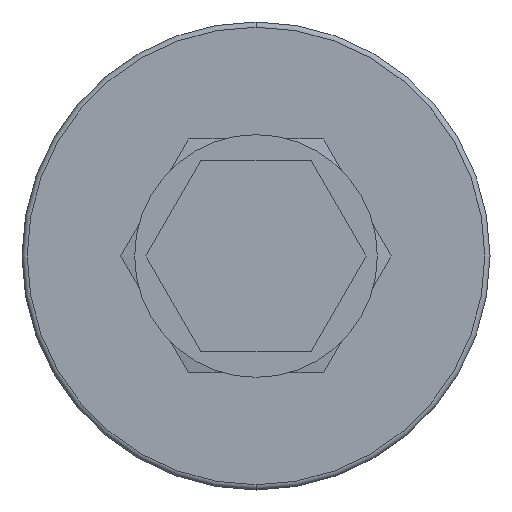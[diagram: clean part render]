
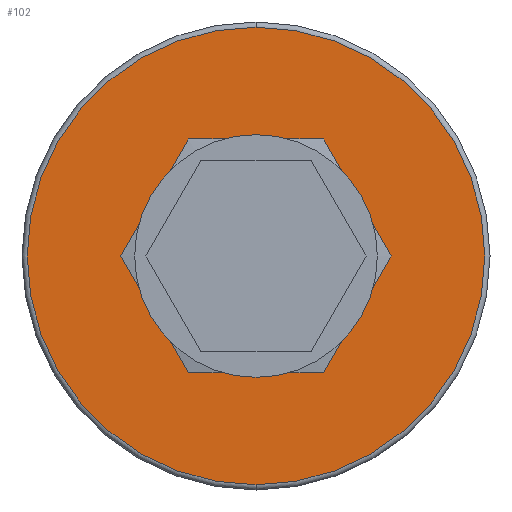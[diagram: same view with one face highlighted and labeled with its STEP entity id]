
A CAD part, front view. The second image highlights one B-rep face of the part: STEP entity #102.
In plain terms, the highlighted planar face has unit normal (0, -1, 0).
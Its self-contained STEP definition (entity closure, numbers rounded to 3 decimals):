
#102=ADVANCED_FACE('',(#183,#184),#185,.T.);
#183=FACE_OUTER_BOUND('',#330,.T.);
#184=FACE_BOUND('',#331,.T.);
#185=PLANE('',#332);
#330=EDGE_LOOP('',(#532,#533));
#331=EDGE_LOOP('',(#534,#535));
#332=AXIS2_PLACEMENT_3D('',#536,#537,#538);
#532=ORIENTED_EDGE('',*,*,#984,.T.);
#533=ORIENTED_EDGE('',*,*,#992,.T.);
#534=ORIENTED_EDGE('',*,*,#991,.F.);
#535=ORIENTED_EDGE('',*,*,#988,.F.);
#536=CARTESIAN_POINT('',(0.,6.0,-14.0));
#537=DIRECTION('',(0.,-1.0,0.));
#538=DIRECTION('',(-1.0,0.,0.));
#984=EDGE_CURVE('',#1149,#1147,#1150,.T.);
#988=EDGE_CURVE('',#1155,#1157,#1158,.T.);
#991=EDGE_CURVE('',#1157,#1155,#1161,.T.);
#992=EDGE_CURVE('',#1147,#1149,#1162,.T.);
#1147=VERTEX_POINT('',#1393);
#1149=VERTEX_POINT('',#1395);
#1150=CIRCLE('',#1396,26.4);
#1155=VERTEX_POINT('',#1401);
#1157=VERTEX_POINT('',#1404);
#1158=CIRCLE('',#1405,14.0);
#1161=CIRCLE('',#1409,14.0);
#1162=CIRCLE('',#1410,26.4);
#1393=CARTESIAN_POINT('',(0.,6.0,26.4));
#1395=CARTESIAN_POINT('',(0.,6.0,-26.4));
#1396=AXIS2_PLACEMENT_3D('',#1826,#1827,#1828);
#1401=CARTESIAN_POINT('',(0.,6.0,14.0));
#1404=CARTESIAN_POINT('',(0.,6.0,-14.0));
#1405=AXIS2_PLACEMENT_3D('',#1836,#1837,#1838);
#1409=AXIS2_PLACEMENT_3D('',#1843,#1844,#1845);
#1410=AXIS2_PLACEMENT_3D('',#1846,#1847,#1848);
#1826=CARTESIAN_POINT('',(0.,6.0,0.0));
#1827=DIRECTION('',(0.,-1.0,0.));
#1828=DIRECTION('',(0.,0.,-1.0));
#1836=CARTESIAN_POINT('',(0.,6.0,0.0));
#1837=DIRECTION('',(0.,-1.0,0.));
#1838=DIRECTION('',(0.,0.,-1.0));
#1843=CARTESIAN_POINT('',(0.,6.0,0.0));
#1844=DIRECTION('',(0.,-1.0,0.));
#1845=DIRECTION('',(0.,0.,-1.0));
#1846=CARTESIAN_POINT('',(0.,6.0,0.0));
#1847=DIRECTION('',(0.,-1.0,0.));
#1848=DIRECTION('',(0.,0.,-1.0));
